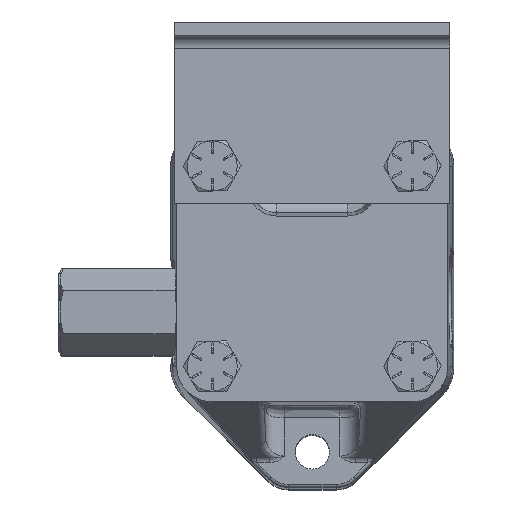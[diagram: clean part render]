
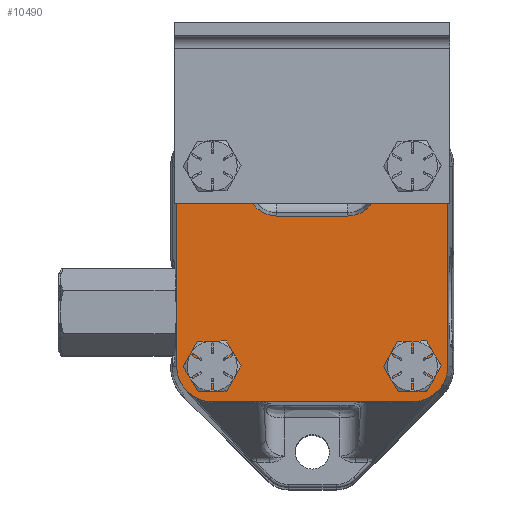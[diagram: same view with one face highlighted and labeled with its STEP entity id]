
A CAD part, top view. The second image highlights one B-rep face of the part: STEP entity #10490.
In plain terms, the highlighted planar face has unit normal (0, 0, 1).
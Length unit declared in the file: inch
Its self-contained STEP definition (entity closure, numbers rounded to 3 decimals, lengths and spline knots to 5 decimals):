
#751=LINE($,#15393,#1439);
#759=LINE($,#15454,#1447);
#760=LINE($,#15458,#1448);
#761=LINE($,#15462,#1449);
#762=LINE($,#15475,#1450);
#763=LINE($,#15488,#1451);
#764=LINE($,#15493,#1452);
#765=LINE($,#15497,#1453);
#1439=VECTOR($,#12301,2.);
#1447=VECTOR($,#12341,0.209);
#1448=VECTOR($,#12344,2.);
#1449=VECTOR($,#12347,0.00994);
#1450=VECTOR($,#12352,2.);
#1451=VECTOR($,#12357,0.00994);
#1452=VECTOR($,#12362,0.209);
#1453=VECTOR($,#12365,0.7096);
#2127=ELLIPSE($,#11146,0.04271,0.031);
#2128=ELLIPSE($,#11149,0.04271,0.031);
#2176=PLANE($,#11139);
#2430=FACE_BOUND($,#3290,.T.);
#2431=FACE_BOUND($,#3291,.T.);
#2432=FACE_BOUND($,#3292,.T.);
#2433=FACE_BOUND($,#3293,.T.);
#2434=FACE_BOUND($,#3294,.T.);
#3290=EDGE_LOOP($,(#7557));
#3291=EDGE_LOOP($,(#7558));
#3292=EDGE_LOOP($,(#7559));
#3293=EDGE_LOOP($,(#7560));
#3294=EDGE_LOOP($,(#7561,#7562,#7563,#7564,#7565,#7566,#7567,#7568,#7569,
#7570,#7571,#7572,#7573,#7574,#7575,#7576,#7577,#7578,#7579,#7580));
#4037=CIRCLE($,#11140,0.172);
#4038=CIRCLE($,#11141,0.172);
#4039=CIRCLE($,#11142,0.172);
#4040=CIRCLE($,#11143,0.172);
#4041=CIRCLE($,#11144,0.35429);
#4042=CIRCLE($,#11145,0.35429);
#4043=CIRCLE($,#11147,0.35429);
#4044=CIRCLE($,#11148,0.35429);
#4045=CIRCLE($,#11150,0.35429);
#4046=CIRCLE($,#11151,0.35429);
#4047=CIRCLE($,#11152,0.29091);
#4048=CIRCLE($,#11153,0.29091);
#4596=B_SPLINE_CURVE_WITH_KNOTS($,3,(#15466,#15467,#15468,#15469,#15470,
#15471),.UNSPECIFIED.,.F.,.F.,(4,2,4),(-0.02619,-0.01013,
0.),.UNSPECIFIED.);
#4597=B_SPLINE_CURVE_WITH_KNOTS($,3,(#15479,#15480,#15481,#15482,#15483,
#15484),.UNSPECIFIED.,.F.,.F.,(4,2,4),(-0.0262,-0.01597,
0.),.UNSPECIFIED.);
#4755=VERTEX_POINT($,#15390);
#4756=VERTEX_POINT($,#15392);
#4768=VERTEX_POINT($,#15444);
#4769=VERTEX_POINT($,#15446);
#4770=VERTEX_POINT($,#15448);
#4771=VERTEX_POINT($,#15450);
#4772=VERTEX_POINT($,#15452);
#4773=VERTEX_POINT($,#15453);
#4774=VERTEX_POINT($,#15455);
#4775=VERTEX_POINT($,#15457);
#4776=VERTEX_POINT($,#15459);
#4777=VERTEX_POINT($,#15461);
#4778=VERTEX_POINT($,#15463);
#4779=VERTEX_POINT($,#15465);
#4780=VERTEX_POINT($,#15472);
#4781=VERTEX_POINT($,#15474);
#4782=VERTEX_POINT($,#15476);
#4783=VERTEX_POINT($,#15478);
#4784=VERTEX_POINT($,#15485);
#4785=VERTEX_POINT($,#15487);
#4786=VERTEX_POINT($,#15490);
#4787=VERTEX_POINT($,#15492);
#4788=VERTEX_POINT($,#15494);
#4789=VERTEX_POINT($,#15496);
#5885=EDGE_CURVE($,#4755,#4756,#751,.T.);
#5901=EDGE_CURVE($,#4768,#4768,#4037,.T.);
#5902=EDGE_CURVE($,#4769,#4769,#4038,.T.);
#5903=EDGE_CURVE($,#4770,#4770,#4039,.T.);
#5904=EDGE_CURVE($,#4771,#4771,#4040,.T.);
#5905=EDGE_CURVE($,#4772,#4773,#759,.T.);
#5906=EDGE_CURVE($,#4774,#4772,#4041,.T.);
#5907=EDGE_CURVE($,#4775,#4774,#760,.T.);
#5908=EDGE_CURVE($,#4776,#4775,#4042,.T.);
#5909=EDGE_CURVE($,#4777,#4776,#761,.T.);
#5910=EDGE_CURVE($,#4778,#4777,#2127,.T.);
#5911=EDGE_CURVE($,#4779,#4778,#4596,.T.);
#5912=EDGE_CURVE($,#4780,#4779,#4043,.T.);
#5913=EDGE_CURVE($,#4781,#4780,#762,.T.);
#5914=EDGE_CURVE($,#4782,#4781,#4044,.T.);
#5915=EDGE_CURVE($,#4783,#4782,#4597,.T.);
#5916=EDGE_CURVE($,#4784,#4783,#2128,.T.);
#5917=EDGE_CURVE($,#4785,#4784,#763,.T.);
#5918=EDGE_CURVE($,#4756,#4785,#4045,.T.);
#5919=EDGE_CURVE($,#4786,#4755,#4046,.T.);
#5920=EDGE_CURVE($,#4787,#4786,#764,.T.);
#5921=EDGE_CURVE($,#4788,#4787,#4047,.T.);
#5922=EDGE_CURVE($,#4789,#4788,#765,.T.);
#5923=EDGE_CURVE($,#4773,#4789,#4048,.T.);
#7557=ORIENTED_EDGE($,*,*,#5901,.T.);
#7558=ORIENTED_EDGE($,*,*,#5902,.T.);
#7559=ORIENTED_EDGE($,*,*,#5903,.T.);
#7560=ORIENTED_EDGE($,*,*,#5904,.T.);
#7561=ORIENTED_EDGE($,*,*,#5905,.F.);
#7562=ORIENTED_EDGE($,*,*,#5906,.F.);
#7563=ORIENTED_EDGE($,*,*,#5907,.F.);
#7564=ORIENTED_EDGE($,*,*,#5908,.F.);
#7565=ORIENTED_EDGE($,*,*,#5909,.F.);
#7566=ORIENTED_EDGE($,*,*,#5910,.F.);
#7567=ORIENTED_EDGE($,*,*,#5911,.F.);
#7568=ORIENTED_EDGE($,*,*,#5912,.F.);
#7569=ORIENTED_EDGE($,*,*,#5913,.F.);
#7570=ORIENTED_EDGE($,*,*,#5914,.F.);
#7571=ORIENTED_EDGE($,*,*,#5915,.F.);
#7572=ORIENTED_EDGE($,*,*,#5916,.F.);
#7573=ORIENTED_EDGE($,*,*,#5917,.F.);
#7574=ORIENTED_EDGE($,*,*,#5918,.F.);
#7575=ORIENTED_EDGE($,*,*,#5885,.F.);
#7576=ORIENTED_EDGE($,*,*,#5919,.F.);
#7577=ORIENTED_EDGE($,*,*,#5920,.F.);
#7578=ORIENTED_EDGE($,*,*,#5921,.F.);
#7579=ORIENTED_EDGE($,*,*,#5922,.F.);
#7580=ORIENTED_EDGE($,*,*,#5923,.F.);
#10490=ADVANCED_FACE($,(#2430,#2431,#2432,#2433,#2434),#2176,.F.);
#11139=AXIS2_PLACEMENT_3D($,#15443,#12331,#12332);
#11140=AXIS2_PLACEMENT_3D($,#15445,#12333,#12334);
#11141=AXIS2_PLACEMENT_3D($,#15447,#12335,#12336);
#11142=AXIS2_PLACEMENT_3D($,#15449,#12337,#12338);
#11143=AXIS2_PLACEMENT_3D($,#15451,#12339,#12340);
#11144=AXIS2_PLACEMENT_3D($,#15456,#12342,#12343);
#11145=AXIS2_PLACEMENT_3D($,#15460,#12345,#12346);
#11146=AXIS2_PLACEMENT_3D($,#15464,#12348,#12349);
#11147=AXIS2_PLACEMENT_3D($,#15473,#12350,#12351);
#11148=AXIS2_PLACEMENT_3D($,#15477,#12353,#12354);
#11149=AXIS2_PLACEMENT_3D($,#15486,#12355,#12356);
#11150=AXIS2_PLACEMENT_3D($,#15489,#12358,#12359);
#11151=AXIS2_PLACEMENT_3D($,#15491,#12360,#12361);
#11152=AXIS2_PLACEMENT_3D($,#15495,#12363,#12364);
#11153=AXIS2_PLACEMENT_3D($,#15498,#12366,#12367);
#12301=DIRECTION($,(0.,-1.,0.));
#12331=DIRECTION('center_axis',(0.,0.,-1.));
#12332=DIRECTION('ref_axis',(-1.,0.,0.));
#12333=DIRECTION('center_axis',(0.,0.,-1.));
#12334=DIRECTION('ref_axis',(1.,0.,0.));
#12335=DIRECTION('center_axis',(0.,0.,-1.));
#12336=DIRECTION('ref_axis',(1.,0.,0.));
#12337=DIRECTION('center_axis',(0.,0.,-1.));
#12338=DIRECTION('ref_axis',(1.,0.,0.));
#12339=DIRECTION('center_axis',(0.,0.,-1.));
#12340=DIRECTION('ref_axis',(1.,0.,0.));
#12341=DIRECTION($,(0.,-1.,0.));
#12342=DIRECTION('center_axis',(0.,0.,-1.));
#12343=DIRECTION('ref_axis',(0.,-1.,0.));
#12344=DIRECTION($,(0.,1.,0.));
#12345=DIRECTION('center_axis',(0.,0.,-1.));
#12346=DIRECTION('ref_axis',(1.,0.,0.));
#12347=DIRECTION($,(-0.707,0.707,0.));
#12348=DIRECTION('center_axis',(0.,0.,-1.));
#12349=DIRECTION('ref_axis',(0.674,-0.739,0.));
#12350=DIRECTION('center_axis',(0.,0.,-1.));
#12351=DIRECTION('ref_axis',(1.,0.,0.));
#12352=DIRECTION($,(-1.,0.,0.));
#12353=DIRECTION('center_axis',(0.,0.,-1.));
#12354=DIRECTION('ref_axis',(-0.707,0.707,0.));
#12355=DIRECTION('center_axis',(0.,0.,-1.));
#12356=DIRECTION('ref_axis',(-0.674,-0.739,0.));
#12357=DIRECTION($,(-0.707,-0.707,0.));
#12358=DIRECTION('center_axis',(0.,0.,-1.));
#12359=DIRECTION('ref_axis',(-0.707,0.707,0.));
#12360=DIRECTION('center_axis',(0.,0.,-1.));
#12361=DIRECTION('ref_axis',(-1.,0.,0.));
#12362=DIRECTION($,(0.,1.,0.));
#12363=DIRECTION('center_axis',(0.,0.,1.));
#12364=DIRECTION('ref_axis',(0.,1.,0.));
#12365=DIRECTION($,(1.,0.,0.));
#12366=DIRECTION('center_axis',(0.,0.,1.));
#12367=DIRECTION('ref_axis',(1.,0.,0.));
#15390=CARTESIAN_POINT('',(1.35429,1.,1.437));
#15392=CARTESIAN_POINT('',(1.35429,-1.,1.437));
#15393=CARTESIAN_POINT($,(1.35429,1.50871,1.437));
#15443=CARTESIAN_POINT('Origin',(0.,2.01742,1.437));
#15444=CARTESIAN_POINT('',(0.828,-1.,1.437));
#15445=CARTESIAN_POINT('Origin',(1.,-1.,1.437));
#15446=CARTESIAN_POINT('',(-1.172,-1.,1.437));
#15447=CARTESIAN_POINT('Origin',(-1.,-1.,1.437));
#15448=CARTESIAN_POINT('',(-1.172,1.,1.437));
#15449=CARTESIAN_POINT('Origin',(-1.,1.,1.437));
#15450=CARTESIAN_POINT('',(0.828,1.,1.437));
#15451=CARTESIAN_POINT('Origin',(1.,1.,1.437));
#15452=CARTESIAN_POINT('',(-0.64571,1.,1.437));
#15453=CARTESIAN_POINT('',(-0.64571,0.791,1.437));
#15454=CARTESIAN_POINT($,(-0.64571,1.50871,1.437));
#15455=CARTESIAN_POINT('',(-1.35429,1.,1.437));
#15456=CARTESIAN_POINT('Origin',(-1.,1.,1.437));
#15457=CARTESIAN_POINT('',(-1.35429,-1.,1.437));
#15458=CARTESIAN_POINT($,(-1.35429,0.50871,1.437));
#15459=CARTESIAN_POINT('',(-1.25052,-1.25052,1.437));
#15460=CARTESIAN_POINT('Origin',(-1.,-1.,1.437));
#15461=CARTESIAN_POINT('',(-1.24349,-1.25755,1.437));
#15462=CARTESIAN_POINT($,(-1.33032,-1.17072,1.437));
#15463=CARTESIAN_POINT('',(-1.24066,-1.26019,1.437));
#15464=CARTESIAN_POINT('Origin',(-1.22245,-1.23471,1.437));
#15465=CARTESIAN_POINT('',(-1.23291,-1.26697,1.437));
#15466=CARTESIAN_POINT('Ctrl Pts',(-1.23291,-1.26697,
1.437));
#15467=CARTESIAN_POINT('Ctrl Pts',(-1.2345,-1.26558,
1.437));
#15468=CARTESIAN_POINT('Ctrl Pts',(-1.23608,-1.26421,
1.437));
#15469=CARTESIAN_POINT('Ctrl Pts',(-1.23867,-1.26194,
1.437));
#15470=CARTESIAN_POINT('Ctrl Pts',(-1.23966,-1.26107,
1.437));
#15471=CARTESIAN_POINT('Ctrl Pts',(-1.24066,-1.26019,1.437));
#15472=CARTESIAN_POINT('',(-1.,-1.35429,1.437));
#15473=CARTESIAN_POINT('Origin',(-1.,-1.,1.437));
#15474=CARTESIAN_POINT('',(1.,-1.35429,1.437));
#15475=CARTESIAN_POINT($,(0.5,-1.35429,1.437));
#15476=CARTESIAN_POINT('',(1.23291,-1.26697,1.437));
#15477=CARTESIAN_POINT('Origin',(1.,-1.,1.437));
#15478=CARTESIAN_POINT('',(1.24066,-1.26019,1.437));
#15479=CARTESIAN_POINT('Ctrl Pts',(1.24066,-1.26019,1.437));
#15480=CARTESIAN_POINT('Ctrl Pts',(1.23965,-1.26108,1.437));
#15481=CARTESIAN_POINT('Ctrl Pts',(1.23865,-1.26196,1.437));
#15482=CARTESIAN_POINT('Ctrl Pts',(1.23606,-1.26422,1.437));
#15483=CARTESIAN_POINT('Ctrl Pts',(1.23449,-1.26559,1.437));
#15484=CARTESIAN_POINT('Ctrl Pts',(1.23291,-1.26697,1.437));
#15485=CARTESIAN_POINT('',(1.24349,-1.25755,1.437));
#15486=CARTESIAN_POINT('Origin',(1.22245,-1.23471,1.437));
#15487=CARTESIAN_POINT('',(1.25052,-1.25052,1.437));
#15488=CARTESIAN_POINT($,(1.75488,-0.74616,1.437));
#15489=CARTESIAN_POINT('Origin',(1.,-1.,1.437));
#15490=CARTESIAN_POINT('',(0.64571,1.,1.437));
#15491=CARTESIAN_POINT('Origin',(1.,1.,1.437));
#15492=CARTESIAN_POINT('',(0.64571,0.791,1.437));
#15493=CARTESIAN_POINT($,(0.64571,1.40421,1.437));
#15494=CARTESIAN_POINT('',(0.3548,0.50009,1.437));
#15495=CARTESIAN_POINT('Origin',(0.3548,0.791,1.437));
#15496=CARTESIAN_POINT('',(-0.3548,0.50009,1.437));
#15497=CARTESIAN_POINT($,(-0.1774,0.50009,1.437));
#15498=CARTESIAN_POINT('Origin',(-0.3548,0.791,1.437));
